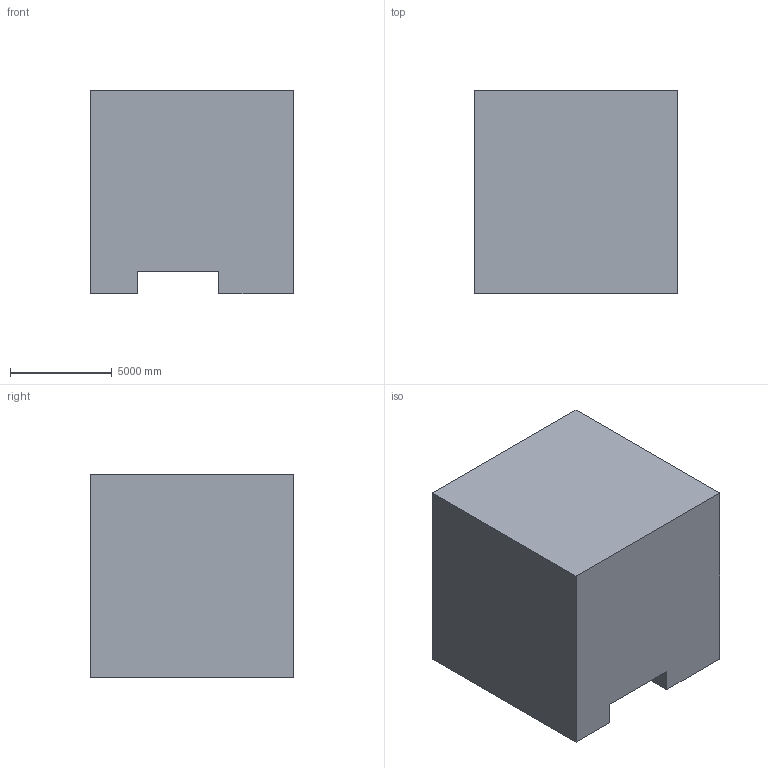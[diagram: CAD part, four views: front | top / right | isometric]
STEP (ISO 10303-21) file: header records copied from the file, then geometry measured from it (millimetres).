
FILE_DESCRIPTION (( 'STEP AP203' ), '1' );
FILE_NAME ('234.STEP', '2022-09-07T12:23:05', ( 'user' ), ( '' ), 'SwSTEP 2.0', 'SolidWorks 2021', '' );
FILE_SCHEMA (( 'CONFIG_CONTROL_DESIGN' ));
Length unit declared in the file: centimetre
Products named in the file (1): 234
Bounding box: 10000 x 10000 x 10000 mm (x, y, z)
Volume: 923551512559.6 mm3; surface area: 664697269.5 mm2
Topology: 1 solids, 1 shells, 15 faces, 39 edges, 26 vertices
Faces by surface type: plane 15
Entity records: 530 total; most frequent: CARTESIAN_POINT 81, ORIENTED_EDGE 78, DIRECTION 71, VECTOR 39, EDGE_CURVE 39, LINE 39, VERTEX_POINT 26, AXIS2_PLACEMENT_3D 16
